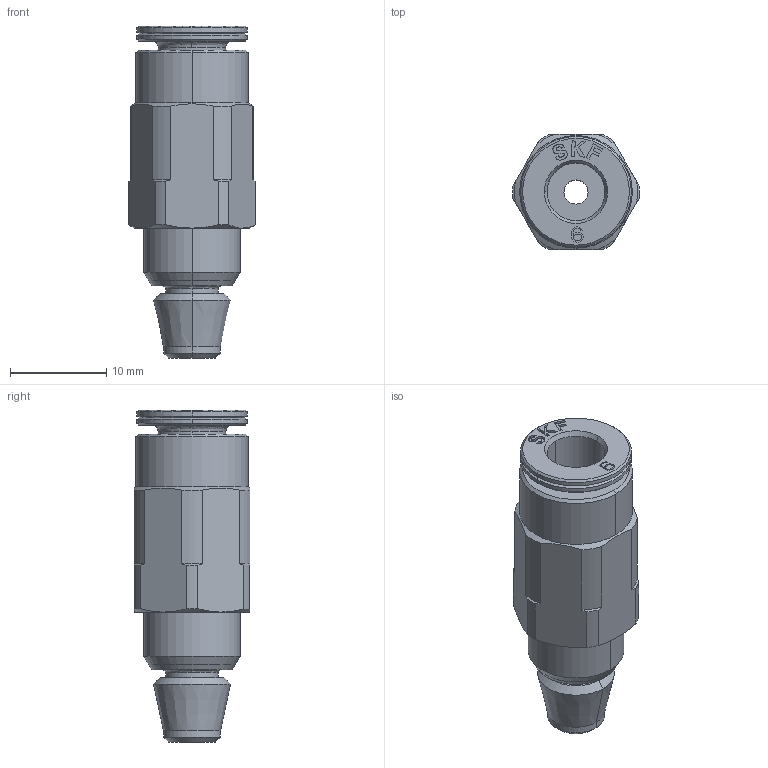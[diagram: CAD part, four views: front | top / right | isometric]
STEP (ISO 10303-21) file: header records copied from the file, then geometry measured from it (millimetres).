
FILE_DESCRIPTION (( 'STEP AP203' ), '1' );
FILE_NAME ('226-14091-4.STEP', '2024-05-15T06:59:50', ( '' ), ( '' ), 'SwSTEP 2.0', 'SolidWorks 2019', '' );
FILE_SCHEMA (( 'CONFIG_CONTROL_DESIGN' ));
Length unit declared in the file: millimetre
Products named in the file (1): 226-14091-4
Bounding box: 13.19 x 12 x 34.5 mm (x, y, z)
Surface area: 2090 mm2 (no closed solid volume)
Topology: 0 solids, 2 shells, 205 faces, 551 edges, 360 vertices
Faces by surface type: plane 104, bspline 35, cone 34, cylinder 32
Entity records: 7066 total; most frequent: CARTESIAN_POINT 2071, ORIENTED_EDGE 1098, DIRECTION 891, EDGE_CURVE 551, VERTEX_POINT 360, LINE 349, VECTOR 349, AXIS2_PLACEMENT_3D 271
